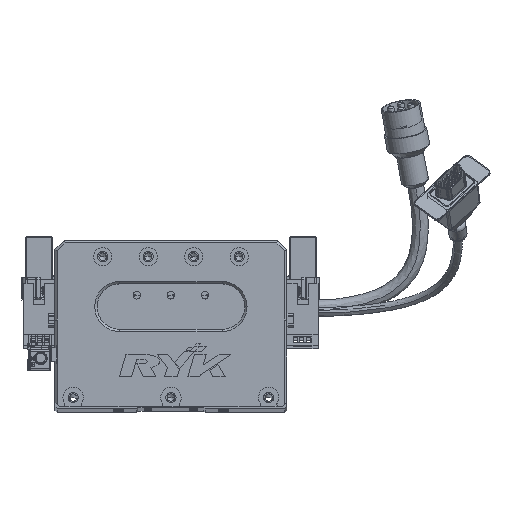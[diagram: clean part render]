
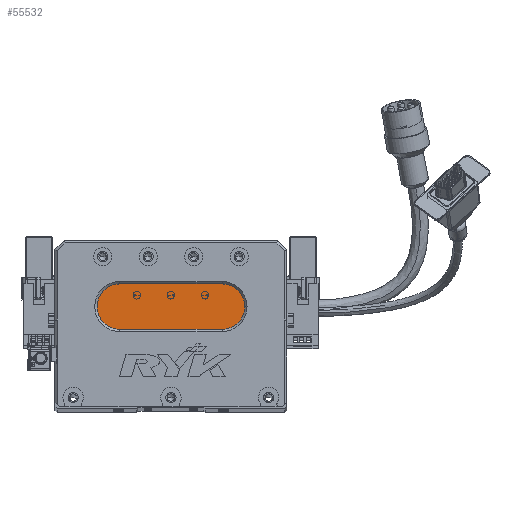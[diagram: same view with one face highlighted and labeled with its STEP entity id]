
A CAD part, top view. The second image highlights one B-rep face of the part: STEP entity #55532.
In plain terms, the highlighted planar face has unit normal (0, 0, 1) as drawn and (0, 0, -1) by its records, which use the part's own axes.
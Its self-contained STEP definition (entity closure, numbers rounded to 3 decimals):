
#287 = DIRECTION ( 'NONE',  ( -1., 0., 0. ) ) ;
#1899 = EDGE_CURVE ( 'NONE', #56487, #14883, #63501, .T. ) ;
#2313 = AXIS2_PLACEMENT_3D ( 'NONE', #53516, #22928, #7741 ) ;
#3876 = CARTESIAN_POINT ( 'NONE',  ( 73.5, 54., 13. ) ) ;
#7741 = DIRECTION ( 'NONE',  ( -1., 0., 0. ) ) ;
#9387 = AXIS2_PLACEMENT_3D ( 'NONE', #20631, #15721, #287 ) ;
#9634 = EDGE_CURVE ( 'NONE', #14883, #53114, #63336, .T. ) ;
#9692 = AXIS2_PLACEMENT_3D ( 'NONE', #25268, #49822, #66132 ) ;
#9894 = VERTEX_POINT ( 'NONE', #37469 ) ;
#12336 = CARTESIAN_POINT ( 'NONE',  ( 73.5, 54., 13. ) ) ;
#14883 = VERTEX_POINT ( 'NONE', #50524 ) ;
#15721 = DIRECTION ( 'NONE',  ( 0., 0., -1. ) ) ;
#16817 = DIRECTION ( 'NONE',  ( -1., 0., 0. ) ) ;
#20631 = CARTESIAN_POINT ( 'NONE',  ( 73.5, 44., 13. ) ) ;
#22928 = DIRECTION ( 'NONE',  ( 0., 0., -1. ) ) ;
#24329 = DIRECTION ( 'NONE',  ( -1., 0., 0. ) ) ;
#25268 = CARTESIAN_POINT ( 'NONE',  ( 28.5, 44., 13. ) ) ;
#30956 = AXIS2_PLACEMENT_3D ( 'NONE', #34803, #60694, #24329 ) ;
#34803 = CARTESIAN_POINT ( 'NONE',  ( 73.5, 44., 13. ) ) ;
#37469 = CARTESIAN_POINT ( 'NONE',  ( 28.5, 54., 13. ) ) ;
#39609 = ORIENTED_EDGE ( 'NONE', *, *, #52081, .T. ) ;
#41136 = PLANE ( 'NONE',  #9387 ) ;
#42882 = EDGE_CURVE ( 'NONE', #9894, #45331, #61567, .T. ) ;
#45331 = VERTEX_POINT ( 'NONE', #12336 ) ;
#45957 = VECTOR ( 'NONE', #16817, 1000. ) ;
#47570 = CARTESIAN_POINT ( 'NONE',  ( 73.5, 34., 13. ) ) ;
#49822 = DIRECTION ( 'NONE',  ( 0., 0., -1. ) ) ;
#50524 = CARTESIAN_POINT ( 'NONE',  ( 28.5, 34., 13. ) ) ;
#52081 = EDGE_CURVE ( 'NONE', #45331, #56487, #52823, .T. ) ;
#52761 = ORIENTED_EDGE ( 'NONE', *, *, #9634, .T. ) ;
#52823 = CIRCLE ( 'NONE', #30956, 10. ) ;
#53114 = VERTEX_POINT ( 'NONE', #64145 ) ;
#53516 = CARTESIAN_POINT ( 'NONE',  ( 28.5, 44., 13. ) ) ;
#53757 = CARTESIAN_POINT ( 'NONE',  ( 73.5, 34., 13. ) ) ;
#54836 = FACE_OUTER_BOUND ( 'NONE', #60670, .T. ) ;
#55461 = DIRECTION ( 'NONE',  ( 1., 0., 0. ) ) ;
#55532 = ADVANCED_FACE ( 'NONE', ( #54836 ), #41136, .T. ) ;
#56487 = VERTEX_POINT ( 'NONE', #53757 ) ;
#57604 = VECTOR ( 'NONE', #55461, 1000. ) ;
#59274 = ORIENTED_EDGE ( 'NONE', *, *, #42882, .T. ) ;
#60388 = ORIENTED_EDGE ( 'NONE', *, *, #60509, .T. ) ;
#60447 = CIRCLE ( 'NONE', #2313, 10. ) ;
#60509 = EDGE_CURVE ( 'NONE', #53114, #9894, #60447, .T. ) ;
#60670 = EDGE_LOOP ( 'NONE', ( #39609, #63325, #52761, #60388, #59274 ) ) ;
#60694 = DIRECTION ( 'NONE',  ( 0., 0., -1. ) ) ;
#61567 = LINE ( 'NONE', #3876, #57604 ) ;
#63325 = ORIENTED_EDGE ( 'NONE', *, *, #1899, .T. ) ;
#63336 = CIRCLE ( 'NONE', #9692, 10. ) ;
#63501 = LINE ( 'NONE', #47570, #45957 ) ;
#64145 = CARTESIAN_POINT ( 'NONE',  ( 18.5, 44., 13. ) ) ;
#66132 = DIRECTION ( 'NONE',  ( -1., 0., 0. ) ) ;
